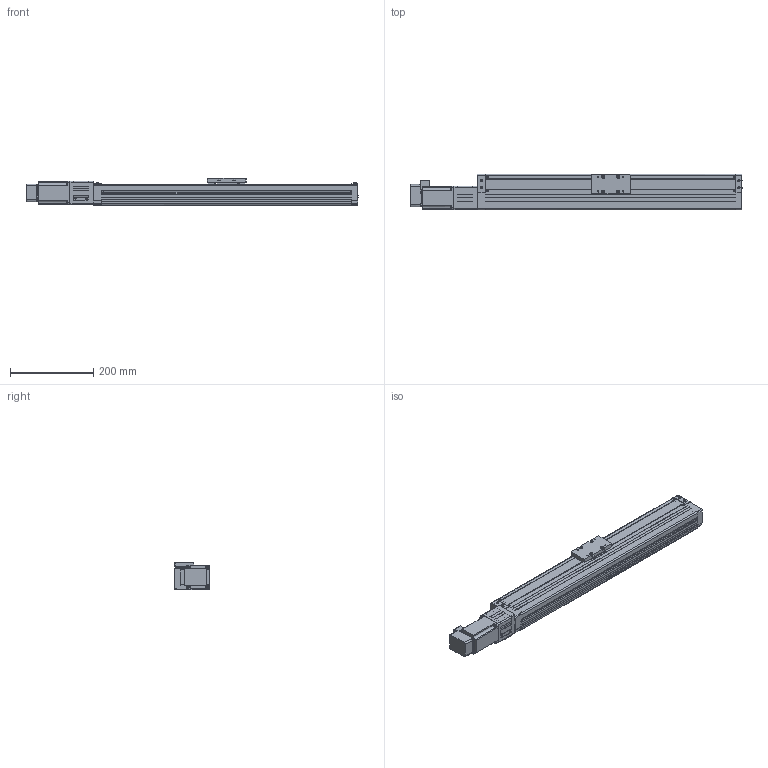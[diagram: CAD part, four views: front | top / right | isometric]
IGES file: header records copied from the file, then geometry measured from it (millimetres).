
Global section: file name: No Iges File Name specified; native system: AutoDesk Inventor R10; preprocessor: AutoDesk Inventor Iges Exporter R10; author: No Author specified; organization: No Organization specified; date: 20110702.133636; units: millimetre
Bounding box: 796.5 x 85 x 65 mm (x, y, z)
Surface area: 469033.6 mm2 (no closed solid volume)
Topology: 0 solids, 0 shells, 1091 faces, 6752 edges, 6724 vertices
Faces by surface type: bspline 1091
